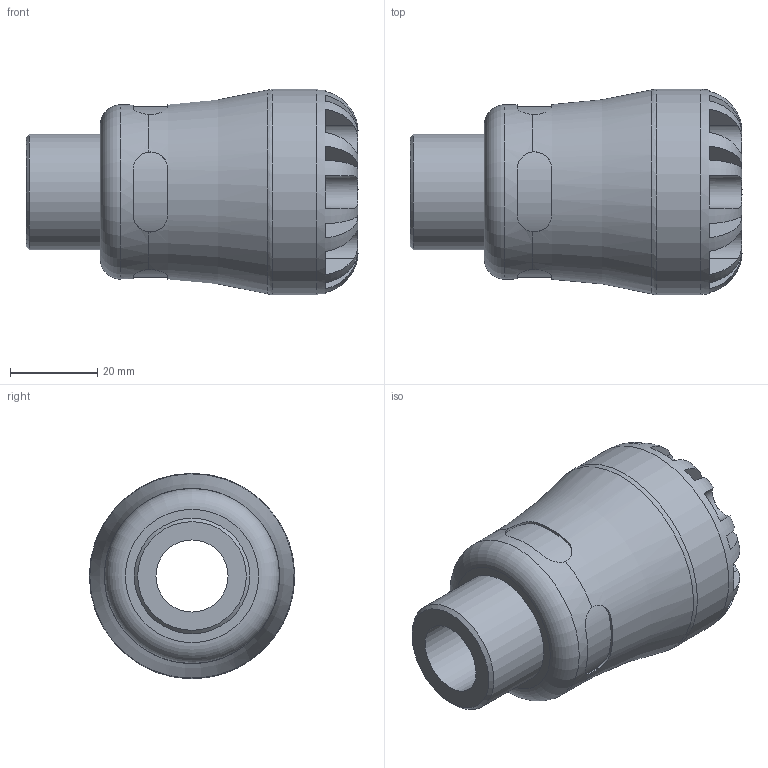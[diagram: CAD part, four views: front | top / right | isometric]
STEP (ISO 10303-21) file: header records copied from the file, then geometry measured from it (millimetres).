
FILE_DESCRIPTION(/* description */ ('PLASSON MALE COPPER ADAPTOR 22X3/4" SERIES 1'),/* implementation_level */ '2;1');
FILE_NAME(/* name */ 'C:\Dropbox\KIMPROJECTS-Inventor\99-16-3568-Processing\1002\X2\0421\X0\\1002C7022007.ipt.step',/* time_stamp */ '2017-05-15T11:05:31+03:00',/* author */ ('KIM'),/* organization */ (''),/* preprocessor_version */ 'ST-DEVELOPER v15.6',/* originating_system */ 'Autodesk Inventor 2015',/* authorisation */ '');
FILE_SCHEMA (('AUTOMOTIVE_DESIGN { 1 0 10303 214 3 1 1 }'));
Length unit declared in the file: millimetre
Products named in the file (1): 1002C7022007
Bounding box: 76 x 47 x 47 mm (x, y, z)
Volume: 66150.6 mm3; surface area: 17595.3 mm2
Topology: 1 solids, 1 shells, 99 faces, 255 edges, 160 vertices
Faces by surface type: plane 60, cylinder 33, torus 4, cone 2
Full cylindrical faces by diameter (mm): 16.5 x1, 22 x1, 26.441 x1, 39.95 x1, 47 x1
Entity records: 3859 total; most frequent: CARTESIAN_POINT 1458, ORIENTED_EDGE 482, DIRECTION 458, EDGE_CURVE 241, AXIS2_PLACEMENT_3D 189, VERTEX_POINT 157, EDGE_LOOP 114, STYLED_ITEM 100
